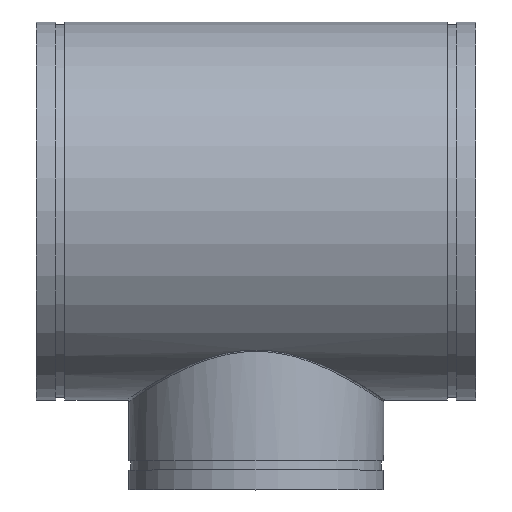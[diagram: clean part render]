
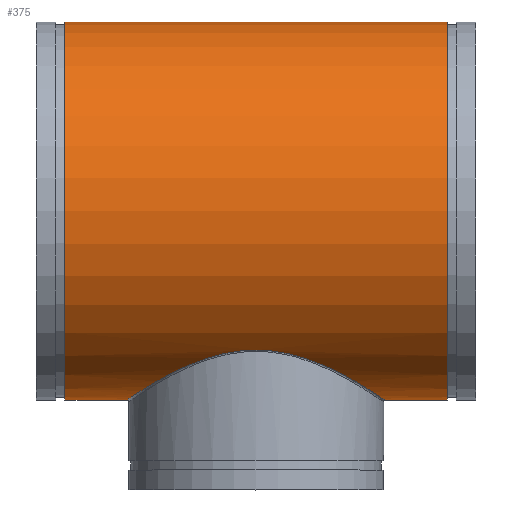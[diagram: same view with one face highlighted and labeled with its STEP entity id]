
A CAD part, top view. The second image highlights one B-rep face of the part: STEP entity #375.
In plain terms, the highlighted cylindrical face has radius 327.66 mm (diameter 655.32 mm), a full revolution.
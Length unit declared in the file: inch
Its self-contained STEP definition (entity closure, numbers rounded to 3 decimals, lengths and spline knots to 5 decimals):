
#54=FACE_BOUND('',#119,.T.);
#65=LINE('',#889,#76);
#76=VECTOR('',#483,12.9);
#87=CYLINDRICAL_SURFACE('',#415,12.9);
#98=FACE_OUTER_BOUND('',#118,.T.);
#118=EDGE_LOOP('',(#266,#267,#268,#269));
#119=EDGE_LOOP('',(#270));
#150=B_SPLINE_CURVE_WITH_KNOTS('',3,(#847,#848,#849,#850,#851,#852,#853,
#854,#855,#856,#857,#858,#859,#860,#861,#862,#863,#864,#865,#866,#867,#868,
#869,#870,#871,#872,#873,#874,#875,#876,#877,#878,#879,#880,#881,#882,#883,
#884),.UNSPECIFIED.,.T.,.F.,(4,1,1,1,1,1,1,1,1,1,1,1,1,1,1,1,1,1,1,1,1,
1,1,1,1,1,1,1,1,1,1,1,1,1,1,4),(-138.90153,-136.42115,-133.94076,
-128.97999,-124.01922,-119.05846,-114.09769,
-109.13692,-104.17615,-101.69576,-99.21538,-95.9082,
-92.60102,-85.98666,-82.67948,-79.3723,
-76.06512,-72.75794,-69.45077,-66.14359,
-62.83641,-59.52923,-52.91487,-46.30051,
-42.99333,-39.68615,-36.37897,-33.07179,
-29.76461,-26.45743,-19.84308,-14.88231,
-9.92154,-4.96077,-2.48038,0.),.UNSPECIFIED.);
#154=CIRCLE('',#416,12.9);
#155=CIRCLE('',#417,12.9);
#182=VERTEX_POINT('',#801);
#185=VERTEX_POINT('',#886);
#186=VERTEX_POINT('',#888);
#219=EDGE_CURVE('',#182,#182,#150,.T.);
#220=EDGE_CURVE('',#185,#185,#154,.T.);
#221=EDGE_CURVE('',#185,#186,#65,.T.);
#222=EDGE_CURVE('',#186,#186,#155,.T.);
#266=ORIENTED_EDGE('',*,*,#220,.T.);
#267=ORIENTED_EDGE('',*,*,#221,.T.);
#268=ORIENTED_EDGE('',*,*,#222,.T.);
#269=ORIENTED_EDGE('',*,*,#221,.F.);
#270=ORIENTED_EDGE('',*,*,#219,.F.);
#375=ADVANCED_FACE('',(#98,#54),#87,.T.);
#415=AXIS2_PLACEMENT_3D('',#885,#479,#480);
#416=AXIS2_PLACEMENT_3D('',#887,#481,#482);
#417=AXIS2_PLACEMENT_3D('',#890,#484,#485);
#479=DIRECTION('center_axis',(-1.,0.,0.));
#480=DIRECTION('ref_axis',(0.,-1.,0.));
#481=DIRECTION('center_axis',(1.,0.,0.));
#482=DIRECTION('ref_axis',(0.,-1.,0.));
#483=DIRECTION('',(1.,0.,0.));
#484=DIRECTION('center_axis',(-1.,0.,0.));
#485=DIRECTION('ref_axis',(0.,-1.,0.));
#801=CARTESIAN_POINT('',(0.,-9.48773,-8.74031));
#847=CARTESIAN_POINT('Ctrl Pts',(0.,-9.48773,-8.74031));
#848=CARTESIAN_POINT('Ctrl Pts',(0.3423,-9.48773,-8.74031));
#849=CARTESIAN_POINT('Ctrl Pts',(1.0266,-9.52447,-8.7007));
#850=CARTESIAN_POINT('Ctrl Pts',(2.36318,-9.73522,-8.46738));
#851=CARTESIAN_POINT('Ctrl Pts',(3.92111,-10.21006,-7.90902));
#852=CARTESIAN_POINT('Ctrl Pts',(5.54837,-10.93971,-6.88405));
#853=CARTESIAN_POINT('Ctrl Pts',(6.91278,-11.68665,-5.54421));
#854=CARTESIAN_POINT('Ctrl Pts',(7.97358,-12.33843,-3.9134));
#855=CARTESIAN_POINT('Ctrl Pts',(8.66379,-12.79106,-2.03363));
#856=CARTESIAN_POINT('Ctrl Pts',(8.86533,-12.92729,-0.3391));
#857=CARTESIAN_POINT('Ctrl Pts',(8.78494,-12.87297,1.01698));
#858=CARTESIAN_POINT('Ctrl Pts',(8.5878,-12.74166,2.12503));
#859=CARTESIAN_POINT('Ctrl Pts',(8.21225,-12.49475,3.28992));
#860=CARTESIAN_POINT('Ctrl Pts',(7.42946,-11.99921,4.8537));
#861=CARTESIAN_POINT('Ctrl Pts',(6.34091,-11.35618,6.18012));
#862=CARTESIAN_POINT('Ctrl Pts',(5.01068,-10.69379,7.23191));
#863=CARTESIAN_POINT('Ctrl Pts',(3.89834,-10.22476,7.87634));
#864=CARTESIAN_POINT('Ctrl Pts',(2.67999,-9.82724,8.36212));
#865=CARTESIAN_POINT('Ctrl Pts',(1.36896,-9.55365,8.66954));
#866=CARTESIAN_POINT('Ctrl Pts',(0.00006,-9.45458,
8.77582));
#867=CARTESIAN_POINT('Ctrl Pts',(-1.36909,-9.55378,8.66939));
#868=CARTESIAN_POINT('Ctrl Pts',(-2.67985,-9.82699,8.36242));
#869=CARTESIAN_POINT('Ctrl Pts',(-4.30473,-10.35795,7.7136));
#870=CARTESIAN_POINT('Ctrl Pts',(-6.06904,-11.19616,6.51094));
#871=CARTESIAN_POINT('Ctrl Pts',(-7.42931,-11.99883,4.8541));
#872=CARTESIAN_POINT('Ctrl Pts',(-8.21231,-12.49492,3.28979));
#873=CARTESIAN_POINT('Ctrl Pts',(-8.62185,-12.76396,2.01924));
#874=CARTESIAN_POINT('Ctrl Pts',(-8.8339,-12.90589,0.68107));
#875=CARTESIAN_POINT('Ctrl Pts',(-8.83371,-12.90593,-0.68116));
#876=CARTESIAN_POINT('Ctrl Pts',(-8.62214,-12.76394,-2.01882));
#877=CARTESIAN_POINT('Ctrl Pts',(-8.07508,-12.40529,-3.71447));
#878=CARTESIAN_POINT('Ctrl Pts',(-7.06413,-11.76977,-5.3961));
#879=CARTESIAN_POINT('Ctrl Pts',(-5.54852,-10.93966,-6.88367));
#880=CARTESIAN_POINT('Ctrl Pts',(-3.9211,-10.21012,-7.9092));
#881=CARTESIAN_POINT('Ctrl Pts',(-2.3632,-9.7352,-8.46729));
#882=CARTESIAN_POINT('Ctrl Pts',(-1.02659,-9.52448,-8.70074));
#883=CARTESIAN_POINT('Ctrl Pts',(-0.3423,-9.48773,-8.74031));
#884=CARTESIAN_POINT('Ctrl Pts',(0.,-9.48773,
-8.74031));
#885=CARTESIAN_POINT('Origin',(15.,0.,0.));
#886=CARTESIAN_POINT('',(-13.035,12.9,0.));
#887=CARTESIAN_POINT('Origin',(-13.035,0.,0.));
#888=CARTESIAN_POINT('',(13.035,12.9,0.));
#889=CARTESIAN_POINT('',(15.,12.9,0.));
#890=CARTESIAN_POINT('Origin',(13.035,0.,0.));
